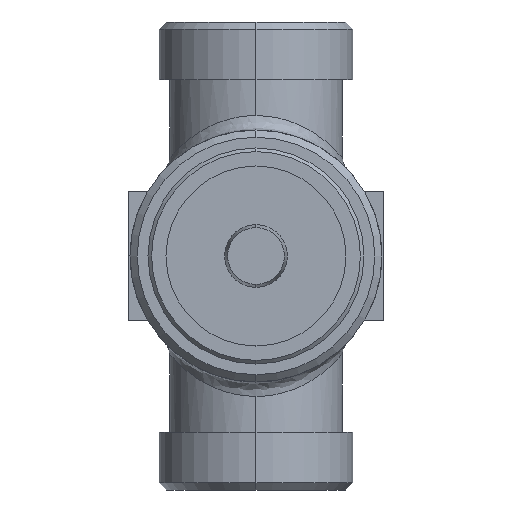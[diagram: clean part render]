
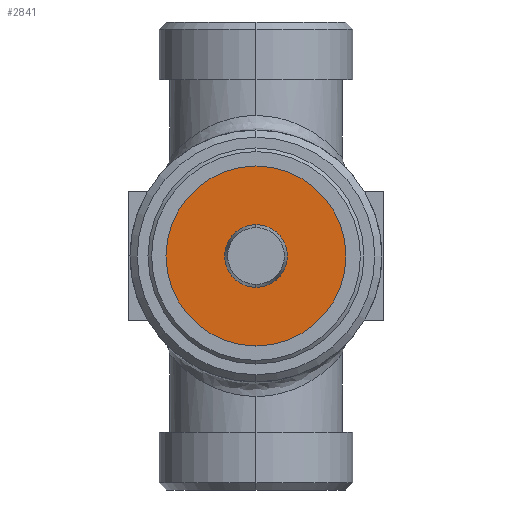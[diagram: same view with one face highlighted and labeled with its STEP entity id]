
A CAD part, front view. The second image highlights one B-rep face of the part: STEP entity #2841.
In plain terms, the highlighted planar face has unit normal (0, -1, 0).
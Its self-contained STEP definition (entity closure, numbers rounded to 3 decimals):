
#2771=CARTESIAN_POINT('',(0.0,-36.0,20.));
#2772=VERTEX_POINT('',#2771);
#2781=CARTESIAN_POINT('',(0.,-36.0,45.));
#2782=VERTEX_POINT('',#2781);
#2783=CARTESIAN_POINT('',(0.0,-36.0,32.5));
#2784=DIRECTION('',(0.0,-1.0,0.0));
#2785=DIRECTION('',(0.0,0.0,-1.0));
#2786=AXIS2_PLACEMENT_3D('',#2783,#2784,#2785);
#2787=CIRCLE('',#2786,12.5);
#2788=EDGE_CURVE('',#2782,#2772,#2787,.T.);
#2822=CARTESIAN_POINT('',(0.0,-36.0,32.5));
#2823=DIRECTION('',(0.0,-1.0,0.0));
#2824=DIRECTION('',(0.0,0.0,-1.0));
#2825=AXIS2_PLACEMENT_3D('',#2822,#2823,#2824);
#2826=CIRCLE('',#2825,12.5);
#2827=EDGE_CURVE('',#2772,#2782,#2826,.T.);
#2832=CARTESIAN_POINT('',(0.0,-36.0,32.5));
#2833=DIRECTION('',(0.0,-1.0,0.0));
#2834=DIRECTION('',(0.0,0.0,1.0));
#2835=AXIS2_PLACEMENT_3D('',#2832,#2833,#2834);
#2836=PLANE('',#2835);
#2837=ORIENTED_EDGE('',*,*,#2827,.T.);
#2838=ORIENTED_EDGE('',*,*,#2788,.T.);
#2839=EDGE_LOOP('',(#2837,#2838));
#2840=FACE_OUTER_BOUND('',#2839,.T.);
#2841=ADVANCED_FACE('',(#2840),#2836,.T.);
